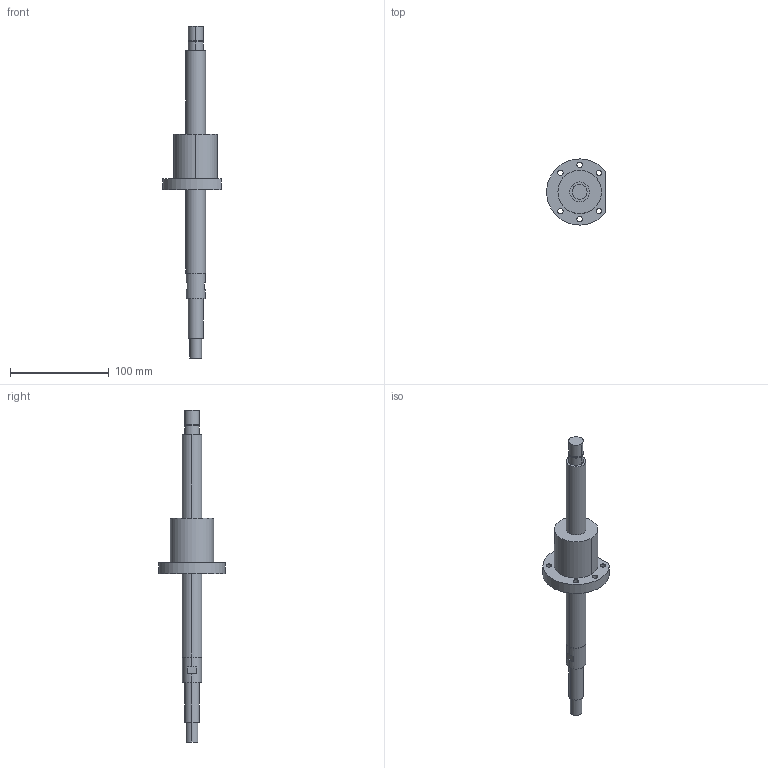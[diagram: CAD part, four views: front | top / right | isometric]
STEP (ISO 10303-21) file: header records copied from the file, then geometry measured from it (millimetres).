
FILE_DESCRIPTION((''),'2;1');
FILE_NAME('PRT0001','2008-03-31T',('mahdi'),(''),'PRO/ENGINEER BY PARAMETRIC TECHNOLOGY CORPORATION, 2005070','PRO/ENGINEER BY PARAMETRIC TECHNOLOGY CORPORATION, 2005070','');
FILE_SCHEMA(('CONFIG_CONTROL_DESIGN'));
Length unit declared in the file: millimetre
Products named in the file (1): PRT0001
Bounding box: 59.38 x 66.95 x 336 mm (x, y, z)
Volume: 176176.3 mm3; surface area: 32470.3 mm2
Topology: 1 solids, 1 shells, 67 faces, 150 edges, 100 vertices
Faces by surface type: cylinder 43, plane 24
Entity records: 1980 total; most frequent: DIRECTION 378, CARTESIAN_POINT 317, ORIENTED_EDGE 300, AXIS2_PLACEMENT_3D 161, EDGE_CURVE 150, VERTEX_POINT 100, EDGE_LOOP 94, CIRCLE 94
